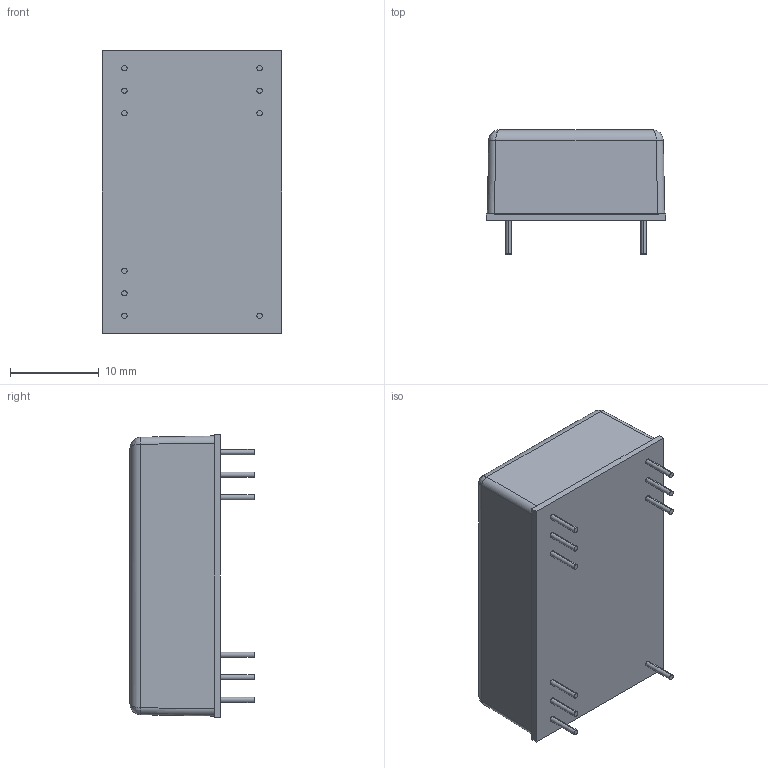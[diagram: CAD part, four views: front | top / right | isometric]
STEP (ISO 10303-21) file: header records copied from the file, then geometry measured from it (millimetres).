
FILE_DESCRIPTION (( 'STEP AP214' ), '1' );
FILE_NAME ('TVN_5-0911WI.STEP', '2021-04-21T11:51:34', ( '' ), ( '' ), 'SwSTEP 2.0', 'SolidWorks 2020', '' );
FILE_SCHEMA (( 'AUTOMOTIVE_DESIGN' ));
Length unit declared in the file: millimetre
Products named in the file (1): TVN_5-0911WI
Bounding box: 20.3 x 14.02 x 31.84 mm (x, y, z)
Volume: 6352.1 mm3; surface area: 2332.2 mm2
Topology: 1 solids, 1 shells, 260 faces, 654 edges, 428 vertices
Faces by surface type: plane 177, bspline 53, cylinder 30
Entity records: 14019 total; most frequent: CARTESIAN_POINT 5556, ORIENTED_EDGE 1300, DIRECTION 1004, EDGE_CURVE 650, LINE 492, VECTOR 492, VERTEX_POINT 428, EDGE_LOOP 296
